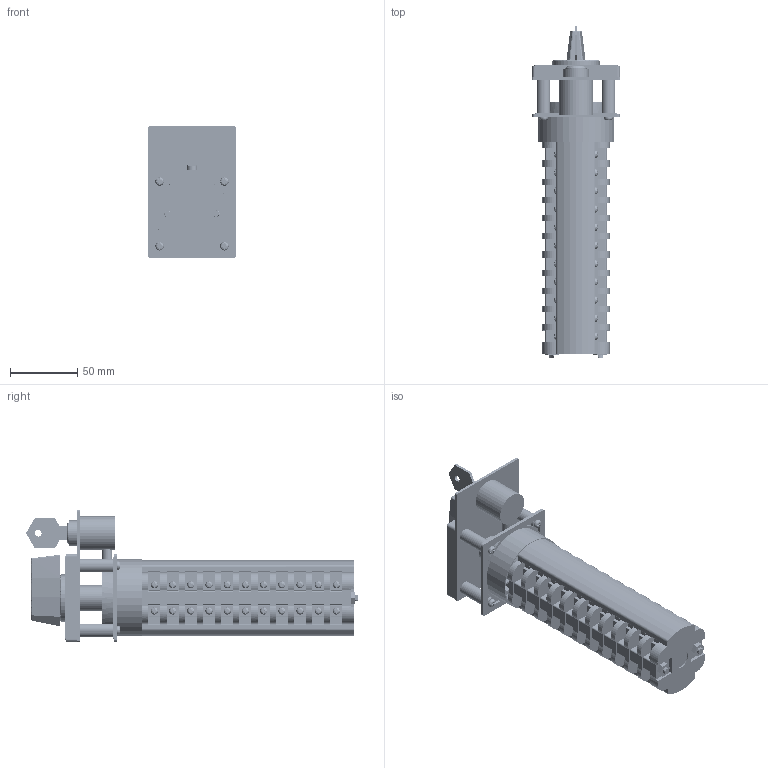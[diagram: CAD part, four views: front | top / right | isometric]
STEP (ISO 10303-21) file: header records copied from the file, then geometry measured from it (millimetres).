
FILE_DESCRIPTION(/* description */ (''),/* implementation_level */ '2;1');
FILE_NAME(/* name */ '4G16,25_S5_11_korpusow.stp',/* time_stamp */ '2021-07-21T12:41:15+02:00',/* author */ (''),/* organization */ (''),/* preprocessor_version */ 'ST-DEVELOPER v18.1',/* originating_system */ 'SIEMENS PLM Software NX 1965',/* authorisation */ '');
FILE_SCHEMA (('AUTOMOTIVE_DESIGN { 1 0 10303 214 3 1 1 1 }'));
Products named in the file (1): 4G16,25_S5_11_korpusow_stp
Bounding box: 65 x 246.1 x 97.5 mm (x, y, z)
Volume: 455216.5 mm3; surface area: 106028.9 mm2
Topology: 2 solids, 13 shells, 2374 faces, 6629 edges, 4377 vertices
Faces by surface type: plane 1433, cylinder 631, bspline 215, cone 92, sphere 2, torus 1
Full cylindrical faces by diameter (mm): 3.3 x2, 4 x4, 4.3 x4, 5 x3, 5.4 x45, 6.4 x4, 6.5 x2, 7.2 x4, 7.5 x1, 10 x5, 14 x1, 15.8 x1, 19 x2, 21.2 x1, 25 x1, 35 x1, 57 x1
Entity records: 215866 total; most frequent: CARTESIAN_POINT 157692, ORIENTED_EDGE 12738, DIRECTION 10938, EDGE_CURVE 6369, VERTEX_POINT 4257, AXIS2_PLACEMENT_3D 3931, LINE 3076, VECTOR 3076
